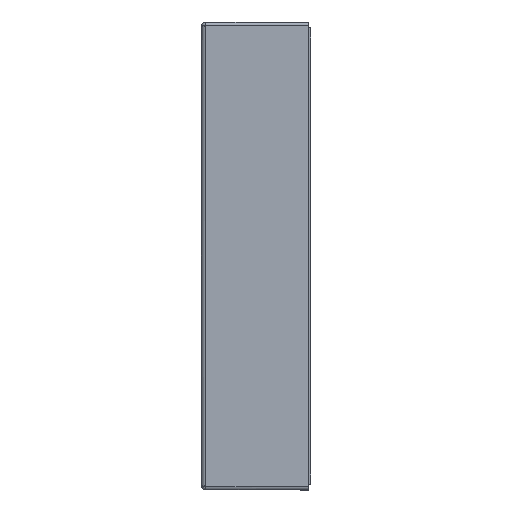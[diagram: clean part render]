
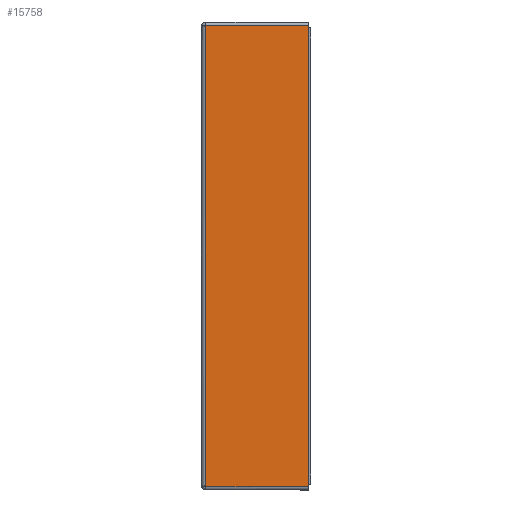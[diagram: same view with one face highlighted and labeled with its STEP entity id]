
A CAD part, left-side view. The second image highlights one B-rep face of the part: STEP entity #15758.
In plain terms, the highlighted planar face has unit normal (-1, 0, 0).
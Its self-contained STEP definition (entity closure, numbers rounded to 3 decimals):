
#493 = VERTEX_POINT ( 'NONE', #10103 ) ;
#572 = VECTOR ( 'NONE', #9326, 1000. ) ;
#1250 = CARTESIAN_POINT ( 'NONE',  ( -119.009, -23.759, 51.25 ) ) ;
#1584 = EDGE_CURVE ( 'NONE', #493, #13502, #4201, .T. ) ;
#2361 = DIRECTION ( 'NONE',  ( 0., -1., 0. ) ) ;
#2443 = DIRECTION ( 'NONE',  ( 1., 0., 0. ) ) ;
#3189 = EDGE_CURVE ( 'NONE', #493, #5357, #7962, .T. ) ;
#3603 = DIRECTION ( 'NONE',  ( 0., 0., 1. ) ) ;
#3910 = VECTOR ( 'NONE', #3603, 1000. ) ;
#4172 = CARTESIAN_POINT ( 'NONE',  ( -119.009, -23.759, -51.25 ) ) ;
#4201 = LINE ( 'NONE', #16604, #572 ) ;
#5007 = CARTESIAN_POINT ( 'NONE',  ( -119.009, 0., 0. ) ) ;
#5024 = ORIENTED_EDGE ( 'NONE', *, *, #13099, .T. ) ;
#5031 = CARTESIAN_POINT ( 'NONE',  ( -119.009, -23.759, 51.25 ) ) ;
#5357 = VERTEX_POINT ( 'NONE', #14381 ) ;
#7272 = FACE_OUTER_BOUND ( 'NONE', #10113, .T. ) ;
#7276 = VECTOR ( 'NONE', #2361, 1000. ) ;
#7962 = LINE ( 'NONE', #13104, #3910 ) ;
#8919 = DIRECTION ( 'NONE',  ( 0., 0., 1. ) ) ;
#9326 = DIRECTION ( 'NONE',  ( 0., -1., 0. ) ) ;
#10103 = CARTESIAN_POINT ( 'NONE',  ( -119.009, -1.013, -51.25 ) ) ;
#10113 = EDGE_LOOP ( 'NONE', ( #11153, #14797, #10317, #5024 ) ) ;
#10317 = ORIENTED_EDGE ( 'NONE', *, *, #1584, .T. ) ;
#10889 = LINE ( 'NONE', #17336, #7276 ) ;
#11153 = ORIENTED_EDGE ( 'NONE', *, *, #12650, .F. ) ;
#11712 = AXIS2_PLACEMENT_3D ( 'NONE', #5007, #2443, #11943 ) ;
#11943 = DIRECTION ( 'NONE',  ( 0., 1., 0. ) ) ;
#12347 = LINE ( 'NONE', #5031, #15979 ) ;
#12650 = EDGE_CURVE ( 'NONE', #5357, #13259, #10889, .T. ) ;
#13099 = EDGE_CURVE ( 'NONE', #13502, #13259, #12347, .T. ) ;
#13104 = CARTESIAN_POINT ( 'NONE',  ( -119.009, -1.013, 0. ) ) ;
#13259 = VERTEX_POINT ( 'NONE', #1250 ) ;
#13502 = VERTEX_POINT ( 'NONE', #4172 ) ;
#14381 = CARTESIAN_POINT ( 'NONE',  ( -119.009, -1.01, 51.25 ) ) ;
#14797 = ORIENTED_EDGE ( 'NONE', *, *, #3189, .F. ) ;
#15758 = ADVANCED_FACE ( 'NONE', ( #7272 ), #17410, .F. ) ;
#15979 = VECTOR ( 'NONE', #8919, 1000. ) ;
#16604 = CARTESIAN_POINT ( 'NONE',  ( -119.009, 0., -51.25 ) ) ;
#17336 = CARTESIAN_POINT ( 'NONE',  ( -119.009, 0., 51.25 ) ) ;
#17410 = PLANE ( 'NONE',  #11712 ) ;
